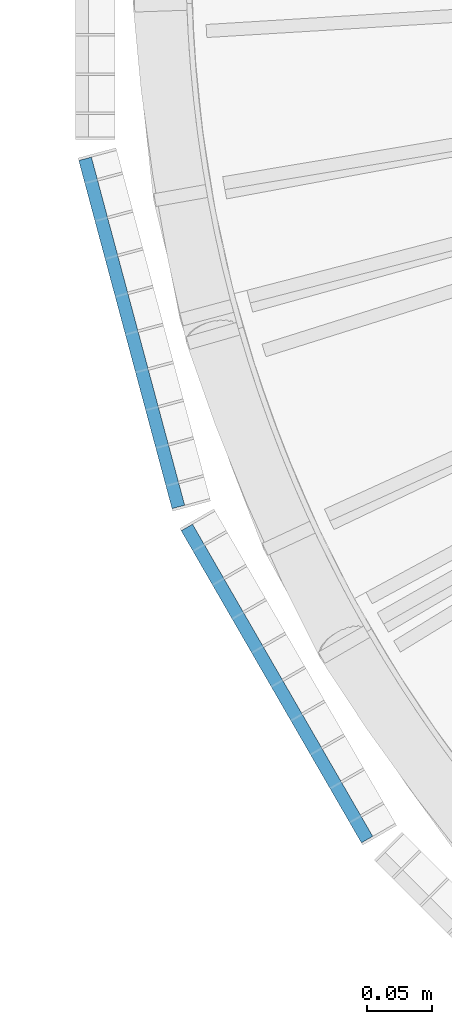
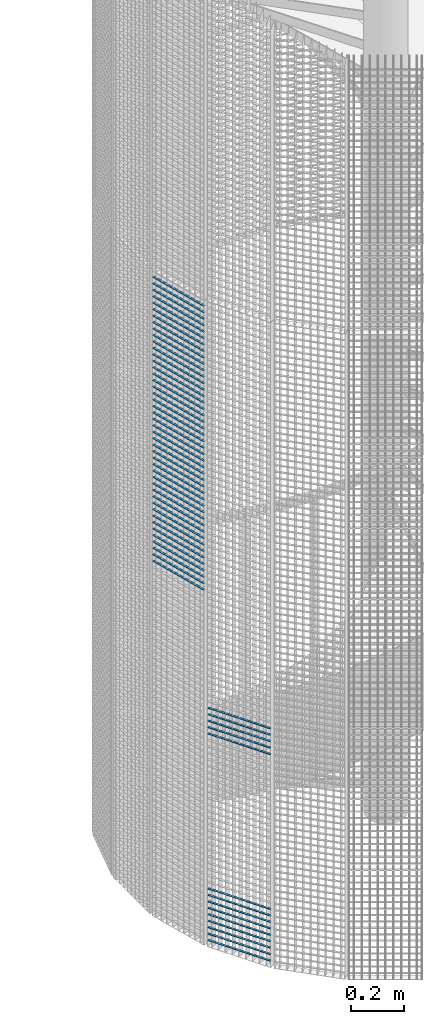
# One storey, part 131 of 1148: 59 beams, 2 elements without a shape of their own.
"""IFC2X3 building model written with IfcOpenShell, lengths in millimetres."""

from ifc_helpers import new_model, si_unit, frame, origin_with_axes, origin_2d_with_axis, place, context, subcontext, project, spatial, rectangle, extrude, material, type_object, element, aggregate, save


model = new_model("IFC2X3")

# Units and contexts
model_context = context("Model", 3, precision=1e-05, world=origin_with_axes())
body_context = subcontext(model_context, "Body", "Model", "MODEL_VIEW")
ifc_project = project(units=[si_unit("LENGTHUNIT", "METRE", prefix="MILLI"), si_unit("AREAUNIT", "SQUARE_METRE"), si_unit("VOLUMEUNIT", "CUBIC_METRE"), si_unit("MASSUNIT", "GRAM", prefix="KILO"), si_unit("TIMEUNIT", "SECOND"), si_unit("PLANEANGLEUNIT", "RADIAN"), si_unit("SOLIDANGLEUNIT", "STERADIAN"), si_unit("THERMODYNAMICTEMPERATUREUNIT", "DEGREE_CELSIUS"), si_unit("LUMINOUSINTENSITYUNIT", "LUMEN")], contexts=[model_context])

# Site, building, storey
site_placement = place(None, origin_with_axes())
site = spatial("IfcSite", under=ifc_project, at=site_placement, Name="Undefined", CompositionType="ELEMENT")
building_placement = place(site_placement, origin_with_axes())
building = spatial("IfcBuilding", under=site, at=building_placement, Name="Undefined", CompositionType="ELEMENT")
storey_placement = place(building_placement, origin_with_axes())
storey = spatial("IfcBuildingStorey", under=building, at=storey_placement, Name="Undefined", CompositionType="ELEMENT", Elevation=0.0)

# Assembly, beams
assembly_1_placement = place(storey_placement, origin_with_axes())
assembly_1 = element("IfcElementAssembly", 1, at=assembly_1_placement, inside=storey, Name="BORDURE", AssemblyPlace="NOTDEFINED", PredefinedType="NOTDEFINED")
ifc_material = material(Name="STEEL/S235JR")
beam_type = type_object("IfcBeamType", Name="PL2*10", PredefinedType="NOTDEFINED")
beam_1_placement = place(assembly_1_placement, frame((-1033.29996828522, -437.231955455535, 269.999999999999), z_axis=(-0.866025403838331, -0.499999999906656, 0.0), x_axis=(0.499999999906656, -0.866025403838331, 0.0)))
beam_1 = element("IfcBeam", 2, at=beam_1_placement, type_object=beam_type, material=ifc_material, Name="ENTRETOISE", context=body_context, shape_type="SweptSolid", body=[
    extrude(rectangle(XDim=2.0, YDim=10.0, at=origin_2d_with_axis()), frame((275.999999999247, 9.09494701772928e-13, 1.53210777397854e-14), z_axis=(-1.0, 0.0, 0.0), x_axis=(0.0, -1.0, 0.0)), (0.0, 0.0, 1.0), 276.0),
])
beam_2_placement = place(assembly_1_placement, frame((-1033.29996828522, -437.231955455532, 989.999999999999), z_axis=(-0.866025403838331, -0.499999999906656, 0.0), x_axis=(0.499999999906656, -0.866025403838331, 0.0)))
beam_2 = element("IfcBeam", 3, at=beam_2_placement, type_object=beam_type, material=ifc_material, Name="ENTRETOISE", context=body_context, shape_type="SweptSolid", body=[
    extrude(rectangle(XDim=2.0, YDim=10.0, at=origin_2d_with_axis()), frame((275.999999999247, 9.09494701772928e-13, 1.53210777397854e-14), z_axis=(-1.0, 0.0, 0.0), x_axis=(0.0, -1.0, 0.0)), (0.0, 0.0, 1.0), 276.0),
])
beam_3_placement = place(assembly_1_placement, frame((-1033.29996828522, -437.231955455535, 239.999999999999), z_axis=(-0.866025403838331, -0.499999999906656, 0.0), x_axis=(0.499999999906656, -0.866025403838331, 0.0)))
beam_3 = element("IfcBeam", 4, at=beam_3_placement, type_object=beam_type, material=ifc_material, Name="ENTRETOISE", context=body_context, shape_type="SweptSolid", body=[
    extrude(rectangle(XDim=2.0, YDim=10.0, at=origin_2d_with_axis()), frame((275.999999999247, 9.09494701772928e-13, 1.53210777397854e-14), z_axis=(-1.0, 0.0, 0.0), x_axis=(0.0, -1.0, 0.0)), (0.0, 0.0, 1.0), 276.0),
])
beam_4_placement = place(assembly_1_placement, frame((-1033.29996828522, -437.231955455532, 1020.0), z_axis=(-0.866025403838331, -0.499999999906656, 0.0), x_axis=(0.499999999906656, -0.866025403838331, 0.0)))
beam_4 = element("IfcBeam", 5, at=beam_4_placement, type_object=beam_type, material=ifc_material, Name="ENTRETOISE", context=body_context, shape_type="SweptSolid", body=[
    extrude(rectangle(XDim=2.0, YDim=10.0, at=origin_2d_with_axis()), frame((275.999999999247, 9.09494701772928e-13, 1.53210777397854e-14), z_axis=(-1.0, 0.0, 0.0), x_axis=(0.0, -1.0, 0.0)), (0.0, 0.0, 1.0), 276.0),
])
beam_5_placement = place(assembly_1_placement, frame((-1033.29996828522, -437.231955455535, 209.999999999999), z_axis=(-0.866025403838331, -0.499999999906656, 0.0), x_axis=(0.499999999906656, -0.866025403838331, 0.0)))
beam_5 = element("IfcBeam", 6, at=beam_5_placement, type_object=beam_type, material=ifc_material, Name="ENTRETOISE", context=body_context, shape_type="SweptSolid", body=[
    extrude(rectangle(XDim=2.0, YDim=10.0, at=origin_2d_with_axis()), frame((275.999999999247, 9.09494701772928e-13, 1.53210777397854e-14), z_axis=(-1.0, 0.0, 0.0), x_axis=(0.0, -1.0, 0.0)), (0.0, 0.0, 1.0), 276.0),
])
beam_6_placement = place(assembly_1_placement, frame((-1033.29996828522, -437.231955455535, 179.999999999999), z_axis=(-0.866025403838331, -0.499999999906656, 0.0), x_axis=(0.499999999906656, -0.866025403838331, 0.0)))
beam_6 = element("IfcBeam", 7, at=beam_6_placement, type_object=beam_type, material=ifc_material, Name="ENTRETOISE", context=body_context, shape_type="SweptSolid", body=[
    extrude(rectangle(XDim=2.0, YDim=10.0, at=origin_2d_with_axis()), frame((275.999999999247, 9.09494701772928e-13, 1.53210777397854e-14), z_axis=(-1.0, 0.0, 0.0), x_axis=(0.0, -1.0, 0.0)), (0.0, 0.0, 1.0), 276.0),
])
beam_7_placement = place(assembly_1_placement, frame((-1033.29996828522, -437.231955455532, 1050.0), z_axis=(-0.866025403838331, -0.499999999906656, 0.0), x_axis=(0.499999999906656, -0.866025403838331, 0.0)))
beam_7 = element("IfcBeam", 8, at=beam_7_placement, type_object=beam_type, material=ifc_material, Name="ENTRETOISE", context=body_context, shape_type="SweptSolid", body=[
    extrude(rectangle(XDim=2.0, YDim=10.0, at=origin_2d_with_axis()), frame((275.999999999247, 9.09494701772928e-13, 1.53210777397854e-14), z_axis=(-1.0, 0.0, 0.0), x_axis=(0.0, -1.0, 0.0)), (0.0, 0.0, 1.0), 276.0),
])
beam_8_placement = place(assembly_1_placement, frame((-1033.29996828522, -437.231955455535, 149.999999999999), z_axis=(-0.866025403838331, -0.499999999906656, 0.0), x_axis=(0.499999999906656, -0.866025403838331, 0.0)))
beam_8 = element("IfcBeam", 9, at=beam_8_placement, type_object=beam_type, material=ifc_material, Name="ENTRETOISE", context=body_context, shape_type="SweptSolid", body=[
    extrude(rectangle(XDim=2.0, YDim=10.0, at=origin_2d_with_axis()), frame((275.999999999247, 9.09494701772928e-13, 1.53210777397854e-14), z_axis=(-1.0, 0.0, 0.0), x_axis=(0.0, -1.0, 0.0)), (0.0, 0.0, 1.0), 276.0),
])
beam_9_placement = place(assembly_1_placement, frame((-1033.29996828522, -437.231955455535, 119.999999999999), z_axis=(-0.866025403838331, -0.499999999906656, 0.0), x_axis=(0.499999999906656, -0.866025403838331, 0.0)))
beam_9 = element("IfcBeam", 10, at=beam_9_placement, type_object=beam_type, material=ifc_material, Name="ENTRETOISE", context=body_context, shape_type="SweptSolid", body=[
    extrude(rectangle(XDim=2.0, YDim=10.0, at=origin_2d_with_axis()), frame((275.999999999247, 9.09494701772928e-13, 1.53210777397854e-14), z_axis=(-1.0, 0.0, 0.0), x_axis=(0.0, -1.0, 0.0)), (0.0, 0.0, 1.0), 276.0),
])
beam_10_placement = place(assembly_1_placement, frame((-1033.29996828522, -437.231955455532, 1080.0), z_axis=(-0.866025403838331, -0.499999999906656, 0.0), x_axis=(0.499999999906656, -0.866025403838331, 0.0)))
beam_10 = element("IfcBeam", 11, at=beam_10_placement, type_object=beam_type, material=ifc_material, Name="ENTRETOISE", context=body_context, shape_type="SweptSolid", body=[
    extrude(rectangle(XDim=2.0, YDim=10.0, at=origin_2d_with_axis()), frame((275.999999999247, 9.09494701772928e-13, 1.53210777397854e-14), z_axis=(-1.0, 0.0, 0.0), x_axis=(0.0, -1.0, 0.0)), (0.0, 0.0, 1.0), 276.0),
])
beam_11_placement = place(assembly_1_placement, frame((-1033.29996828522, -437.231955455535, 89.9999999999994), z_axis=(-0.866025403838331, -0.499999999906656, 0.0), x_axis=(0.499999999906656, -0.866025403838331, 0.0)))
beam_11 = element("IfcBeam", 12, at=beam_11_placement, type_object=beam_type, material=ifc_material, Name="ENTRETOISE", context=body_context, shape_type="SweptSolid", body=[
    extrude(rectangle(XDim=2.0, YDim=10.0, at=origin_2d_with_axis()), frame((275.999999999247, 9.09494701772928e-13, 1.53210777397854e-14), z_axis=(-1.0, 0.0, 0.0), x_axis=(0.0, -1.0, 0.0)), (0.0, 0.0, 1.0), 276.0),
])
beam_12_placement = place(assembly_1_placement, frame((-1033.29996828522, -437.231955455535, 59.9999999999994), z_axis=(-0.866025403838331, -0.499999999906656, 0.0), x_axis=(0.499999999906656, -0.866025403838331, 0.0)))
beam_12 = element("IfcBeam", 13, at=beam_12_placement, type_object=beam_type, material=ifc_material, Name="ENTRETOISE", context=body_context, shape_type="SweptSolid", body=[
    extrude(rectangle(XDim=2.0, YDim=10.0, at=origin_2d_with_axis()), frame((275.999999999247, 9.09494701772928e-13, 1.53210777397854e-14), z_axis=(-1.0, 0.0, 0.0), x_axis=(0.0, -1.0, 0.0)), (0.0, 0.0, 1.0), 276.0),
])
beam_13_placement = place(assembly_1_placement, frame((-1033.29996828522, -437.231955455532, 1110.0), z_axis=(-0.866025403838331, -0.499999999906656, 0.0), x_axis=(0.499999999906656, -0.866025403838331, 0.0)))
beam_13 = element("IfcBeam", 14, at=beam_13_placement, type_object=beam_type, material=ifc_material, Name="ENTRETOISE", context=body_context, shape_type="SweptSolid", body=[
    extrude(rectangle(XDim=2.0, YDim=10.0, at=origin_2d_with_axis()), frame((275.999999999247, 9.09494701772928e-13, 1.53210777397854e-14), z_axis=(-1.0, 0.0, 0.0), x_axis=(0.0, -1.0, 0.0)), (0.0, 0.0, 1.0), 276.0),
])
beam_14_placement = place(assembly_1_placement, frame((-1033.29996828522, -437.231955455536, 29.9999999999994), z_axis=(-0.866025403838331, -0.499999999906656, 0.0), x_axis=(0.499999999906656, -0.866025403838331, 0.0)))
beam_14 = element("IfcBeam", 15, at=beam_14_placement, type_object=beam_type, material=ifc_material, Name="ENTRETOISE", context=body_context, shape_type="SweptSolid", body=[
    extrude(rectangle(XDim=2.0, YDim=10.0, at=origin_2d_with_axis()), frame((275.999999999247, 9.09494701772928e-13, 1.53210777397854e-14), z_axis=(-1.0, 0.0, 0.0), x_axis=(0.0, -1.0, 0.0)), (0.0, 0.0, 1.0), 276.0),
])
aggregate(assembly_1, [beam_1, beam_2, beam_3, beam_4, beam_5, beam_6, beam_7, beam_8, beam_9, beam_10, beam_11, beam_12, beam_13, beam_14])

assembly_2_placement = place(storey_placement, origin_with_axes())
assembly_2 = element("IfcElementAssembly", 16, at=assembly_2_placement, inside=storey, Name="BORDURE", AssemblyPlace="NOTDEFINED", PredefinedType="NOTDEFINED")
beam_15_placement = place(assembly_2_placement, frame((-1111.25508286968, -154.895926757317, 2970.0), z_axis=(-0.965925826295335, -0.258819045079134, 0.0), x_axis=(0.258819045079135, -0.965925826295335, 0.0)))
beam_15 = element("IfcBeam", 17, at=beam_15_placement, type_object=beam_type, material=ifc_material, Name="ENTRETOISE", context=body_context, shape_type="SweptSolid", body=[
    extrude(rectangle(XDim=2.0, YDim=10.0, at=origin_2d_with_axis()), frame((275.999999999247, 9.09494701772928e-13, 1.53210777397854e-14), z_axis=(-1.0, 0.0, 0.0), x_axis=(0.0, -1.0, 0.0)), (0.0, 0.0, 1.0), 276.0),
])
beam_16_placement = place(assembly_2_placement, frame((-1111.25508286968, -154.895926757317, 2940.0), z_axis=(-0.965925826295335, -0.258819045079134, 0.0), x_axis=(0.258819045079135, -0.965925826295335, 0.0)))
beam_16 = element("IfcBeam", 18, at=beam_16_placement, type_object=beam_type, material=ifc_material, Name="ENTRETOISE", context=body_context, shape_type="SweptSolid", body=[
    extrude(rectangle(XDim=2.0, YDim=10.0, at=origin_2d_with_axis()), frame((275.999999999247, 9.09494701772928e-13, 1.53210777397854e-14), z_axis=(-1.0, 0.0, 0.0), x_axis=(0.0, -1.0, 0.0)), (0.0, 0.0, 1.0), 276.0),
])
beam_17_placement = place(assembly_2_placement, frame((-1111.25508286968, -154.895926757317, 2910.0), z_axis=(-0.965925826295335, -0.258819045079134, 0.0), x_axis=(0.258819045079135, -0.965925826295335, 0.0)))
beam_17 = element("IfcBeam", 19, at=beam_17_placement, type_object=beam_type, material=ifc_material, Name="ENTRETOISE", context=body_context, shape_type="SweptSolid", body=[
    extrude(rectangle(XDim=2.0, YDim=10.0, at=origin_2d_with_axis()), frame((275.999999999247, 9.09494701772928e-13, 1.53210777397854e-14), z_axis=(-1.0, 0.0, 0.0), x_axis=(0.0, -1.0, 0.0)), (0.0, 0.0, 1.0), 276.0),
])
beam_18_placement = place(assembly_2_placement, frame((-1111.25508286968, -154.895926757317, 2880.0), z_axis=(-0.965925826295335, -0.258819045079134, 0.0), x_axis=(0.258819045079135, -0.965925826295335, 0.0)))
beam_18 = element("IfcBeam", 20, at=beam_18_placement, type_object=beam_type, material=ifc_material, Name="ENTRETOISE", context=body_context, shape_type="SweptSolid", body=[
    extrude(rectangle(XDim=2.0, YDim=10.0, at=origin_2d_with_axis()), frame((275.999999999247, 9.09494701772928e-13, 1.53210777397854e-14), z_axis=(-1.0, 0.0, 0.0), x_axis=(0.0, -1.0, 0.0)), (0.0, 0.0, 1.0), 276.0),
])
beam_19_placement = place(assembly_2_placement, frame((-1111.25508286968, -154.895926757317, 2850.0), z_axis=(-0.965925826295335, -0.258819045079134, 0.0), x_axis=(0.258819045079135, -0.965925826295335, 0.0)))
beam_19 = element("IfcBeam", 21, at=beam_19_placement, type_object=beam_type, material=ifc_material, Name="ENTRETOISE", context=body_context, shape_type="SweptSolid", body=[
    extrude(rectangle(XDim=2.0, YDim=10.0, at=origin_2d_with_axis()), frame((275.999999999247, 9.09494701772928e-13, 1.53210777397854e-14), z_axis=(-1.0, 0.0, 0.0), x_axis=(0.0, -1.0, 0.0)), (0.0, 0.0, 1.0), 276.0),
])
beam_20_placement = place(assembly_2_placement, frame((-1111.25508286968, -154.895926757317, 2820.0), z_axis=(-0.965925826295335, -0.258819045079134, 0.0), x_axis=(0.258819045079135, -0.965925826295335, 0.0)))
beam_20 = element("IfcBeam", 22, at=beam_20_placement, type_object=beam_type, material=ifc_material, Name="ENTRETOISE", context=body_context, shape_type="SweptSolid", body=[
    extrude(rectangle(XDim=2.0, YDim=10.0, at=origin_2d_with_axis()), frame((275.999999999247, 9.09494701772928e-13, 1.53210777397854e-14), z_axis=(-1.0, 0.0, 0.0), x_axis=(0.0, -1.0, 0.0)), (0.0, 0.0, 1.0), 276.0),
])
beam_21_placement = place(assembly_2_placement, frame((-1111.25508286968, -154.895926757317, 2790.0), z_axis=(-0.965925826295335, -0.258819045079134, 0.0), x_axis=(0.258819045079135, -0.965925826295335, 0.0)))
beam_21 = element("IfcBeam", 23, at=beam_21_placement, type_object=beam_type, material=ifc_material, Name="ENTRETOISE", context=body_context, shape_type="SweptSolid", body=[
    extrude(rectangle(XDim=2.0, YDim=10.0, at=origin_2d_with_axis()), frame((275.999999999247, 9.09494701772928e-13, 1.53210777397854e-14), z_axis=(-1.0, 0.0, 0.0), x_axis=(0.0, -1.0, 0.0)), (0.0, 0.0, 1.0), 276.0),
])
beam_22_placement = place(assembly_2_placement, frame((-1111.25508286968, -154.895926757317, 2760.0), z_axis=(-0.965925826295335, -0.258819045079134, 0.0), x_axis=(0.258819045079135, -0.965925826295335, 0.0)))
beam_22 = element("IfcBeam", 24, at=beam_22_placement, type_object=beam_type, material=ifc_material, Name="ENTRETOISE", context=body_context, shape_type="SweptSolid", body=[
    extrude(rectangle(XDim=2.0, YDim=10.0, at=origin_2d_with_axis()), frame((275.999999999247, 9.09494701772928e-13, 1.53210777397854e-14), z_axis=(-1.0, 0.0, 0.0), x_axis=(0.0, -1.0, 0.0)), (0.0, 0.0, 1.0), 276.0),
])
beam_23_placement = place(assembly_2_placement, frame((-1111.25508286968, -154.895926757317, 2730.0), z_axis=(-0.965925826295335, -0.258819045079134, 0.0), x_axis=(0.258819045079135, -0.965925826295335, 0.0)))
beam_23 = element("IfcBeam", 25, at=beam_23_placement, type_object=beam_type, material=ifc_material, Name="ENTRETOISE", context=body_context, shape_type="SweptSolid", body=[
    extrude(rectangle(XDim=2.0, YDim=10.0, at=origin_2d_with_axis()), frame((275.999999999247, 9.09494701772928e-13, 1.53210777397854e-14), z_axis=(-1.0, 0.0, 0.0), x_axis=(0.0, -1.0, 0.0)), (0.0, 0.0, 1.0), 276.0),
])
beam_24_placement = place(assembly_2_placement, frame((-1111.25508286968, -154.895926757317, 2700.0), z_axis=(-0.965925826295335, -0.258819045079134, 0.0), x_axis=(0.258819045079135, -0.965925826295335, 0.0)))
beam_24 = element("IfcBeam", 26, at=beam_24_placement, type_object=beam_type, material=ifc_material, Name="ENTRETOISE", context=body_context, shape_type="SweptSolid", body=[
    extrude(rectangle(XDim=2.0, YDim=10.0, at=origin_2d_with_axis()), frame((275.999999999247, 9.09494701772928e-13, 1.53210777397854e-14), z_axis=(-1.0, 0.0, 0.0), x_axis=(0.0, -1.0, 0.0)), (0.0, 0.0, 1.0), 276.0),
])
beam_25_placement = place(assembly_2_placement, frame((-1111.25508286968, -154.895926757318, 2670.0), z_axis=(-0.965925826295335, -0.258819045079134, 0.0), x_axis=(0.258819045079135, -0.965925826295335, 0.0)))
beam_25 = element("IfcBeam", 27, at=beam_25_placement, type_object=beam_type, material=ifc_material, Name="ENTRETOISE", context=body_context, shape_type="SweptSolid", body=[
    extrude(rectangle(XDim=2.0, YDim=10.0, at=origin_2d_with_axis()), frame((275.999999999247, 9.09494701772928e-13, 1.53210777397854e-14), z_axis=(-1.0, 0.0, 0.0), x_axis=(0.0, -1.0, 0.0)), (0.0, 0.0, 1.0), 276.0),
])
beam_26_placement = place(assembly_2_placement, frame((-1111.25508286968, -154.895926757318, 2640.0), z_axis=(-0.965925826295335, -0.258819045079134, 0.0), x_axis=(0.258819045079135, -0.965925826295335, 0.0)))
beam_26 = element("IfcBeam", 28, at=beam_26_placement, type_object=beam_type, material=ifc_material, Name="ENTRETOISE", context=body_context, shape_type="SweptSolid", body=[
    extrude(rectangle(XDim=2.0, YDim=10.0, at=origin_2d_with_axis()), frame((275.999999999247, 9.09494701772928e-13, 1.53210777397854e-14), z_axis=(-1.0, 0.0, 0.0), x_axis=(0.0, -1.0, 0.0)), (0.0, 0.0, 1.0), 276.0),
])
beam_27_placement = place(assembly_2_placement, frame((-1111.25508286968, -154.895926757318, 2610.0), z_axis=(-0.965925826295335, -0.258819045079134, 0.0), x_axis=(0.258819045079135, -0.965925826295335, 0.0)))
beam_27 = element("IfcBeam", 29, at=beam_27_placement, type_object=beam_type, material=ifc_material, Name="ENTRETOISE", context=body_context, shape_type="SweptSolid", body=[
    extrude(rectangle(XDim=2.0, YDim=10.0, at=origin_2d_with_axis()), frame((275.999999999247, 9.09494701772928e-13, 1.53210777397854e-14), z_axis=(-1.0, 0.0, 0.0), x_axis=(0.0, -1.0, 0.0)), (0.0, 0.0, 1.0), 276.0),
])
beam_28_placement = place(assembly_2_placement, frame((-1111.25508286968, -154.895926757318, 2580.0), z_axis=(-0.965925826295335, -0.258819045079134, 0.0), x_axis=(0.258819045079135, -0.965925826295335, 0.0)))
beam_28 = element("IfcBeam", 30, at=beam_28_placement, type_object=beam_type, material=ifc_material, Name="ENTRETOISE", context=body_context, shape_type="SweptSolid", body=[
    extrude(rectangle(XDim=2.0, YDim=10.0, at=origin_2d_with_axis()), frame((275.999999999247, 9.09494701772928e-13, 1.53210777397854e-14), z_axis=(-1.0, 0.0, 0.0), x_axis=(0.0, -1.0, 0.0)), (0.0, 0.0, 1.0), 276.0),
])
beam_29_placement = place(assembly_2_placement, frame((-1111.25508286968, -154.895926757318, 2550.0), z_axis=(-0.965925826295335, -0.258819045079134, 0.0), x_axis=(0.258819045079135, -0.965925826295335, 0.0)))
beam_29 = element("IfcBeam", 31, at=beam_29_placement, type_object=beam_type, material=ifc_material, Name="ENTRETOISE", context=body_context, shape_type="SweptSolid", body=[
    extrude(rectangle(XDim=2.0, YDim=10.0, at=origin_2d_with_axis()), frame((275.999999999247, 9.09494701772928e-13, 1.53210777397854e-14), z_axis=(-1.0, 0.0, 0.0), x_axis=(0.0, -1.0, 0.0)), (0.0, 0.0, 1.0), 276.0),
])
beam_30_placement = place(assembly_2_placement, frame((-1111.25508286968, -154.895926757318, 2520.0), z_axis=(-0.965925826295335, -0.258819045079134, 0.0), x_axis=(0.258819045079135, -0.965925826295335, 0.0)))
beam_30 = element("IfcBeam", 32, at=beam_30_placement, type_object=beam_type, material=ifc_material, Name="ENTRETOISE", context=body_context, shape_type="SweptSolid", body=[
    extrude(rectangle(XDim=2.0, YDim=10.0, at=origin_2d_with_axis()), frame((275.999999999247, 9.09494701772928e-13, 1.53210777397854e-14), z_axis=(-1.0, 0.0, 0.0), x_axis=(0.0, -1.0, 0.0)), (0.0, 0.0, 1.0), 276.0),
])
beam_31_placement = place(assembly_2_placement, frame((-1111.25508286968, -154.895926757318, 2490.0), z_axis=(-0.965925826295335, -0.258819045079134, 0.0), x_axis=(0.258819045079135, -0.965925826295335, 0.0)))
beam_31 = element("IfcBeam", 33, at=beam_31_placement, type_object=beam_type, material=ifc_material, Name="ENTRETOISE", context=body_context, shape_type="SweptSolid", body=[
    extrude(rectangle(XDim=2.0, YDim=10.0, at=origin_2d_with_axis()), frame((275.999999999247, 9.09494701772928e-13, 1.53210777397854e-14), z_axis=(-1.0, 0.0, 0.0), x_axis=(0.0, -1.0, 0.0)), (0.0, 0.0, 1.0), 276.0),
])
beam_32_placement = place(assembly_2_placement, frame((-1111.25508286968, -154.895926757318, 2460.0), z_axis=(-0.965925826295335, -0.258819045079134, 0.0), x_axis=(0.258819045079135, -0.965925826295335, 0.0)))
beam_32 = element("IfcBeam", 34, at=beam_32_placement, type_object=beam_type, material=ifc_material, Name="ENTRETOISE", context=body_context, shape_type="SweptSolid", body=[
    extrude(rectangle(XDim=2.0, YDim=10.0, at=origin_2d_with_axis()), frame((275.999999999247, 9.09494701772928e-13, 1.53210777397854e-14), z_axis=(-1.0, 0.0, 0.0), x_axis=(0.0, -1.0, 0.0)), (0.0, 0.0, 1.0), 276.0),
])
beam_33_placement = place(assembly_2_placement, frame((-1111.25508286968, -154.895926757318, 2430.0), z_axis=(-0.965925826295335, -0.258819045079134, 0.0), x_axis=(0.258819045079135, -0.965925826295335, 0.0)))
beam_33 = element("IfcBeam", 35, at=beam_33_placement, type_object=beam_type, material=ifc_material, Name="ENTRETOISE", context=body_context, shape_type="SweptSolid", body=[
    extrude(rectangle(XDim=2.0, YDim=10.0, at=origin_2d_with_axis()), frame((275.999999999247, 9.09494701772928e-13, 1.53210777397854e-14), z_axis=(-1.0, 0.0, 0.0), x_axis=(0.0, -1.0, 0.0)), (0.0, 0.0, 1.0), 276.0),
])
beam_34_placement = place(assembly_2_placement, frame((-1111.25508286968, -154.895926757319, 2400.0), z_axis=(-0.965925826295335, -0.258819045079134, 0.0), x_axis=(0.258819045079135, -0.965925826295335, 0.0)))
beam_34 = element("IfcBeam", 36, at=beam_34_placement, type_object=beam_type, material=ifc_material, Name="ENTRETOISE", context=body_context, shape_type="SweptSolid", body=[
    extrude(rectangle(XDim=2.0, YDim=10.0, at=origin_2d_with_axis()), frame((275.999999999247, 9.09494701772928e-13, 1.53210777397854e-14), z_axis=(-1.0, 0.0, 0.0), x_axis=(0.0, -1.0, 0.0)), (0.0, 0.0, 1.0), 276.0),
])
beam_35_placement = place(assembly_2_placement, frame((-1111.25508286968, -154.895926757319, 2370.0), z_axis=(-0.965925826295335, -0.258819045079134, 0.0), x_axis=(0.258819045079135, -0.965925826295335, 0.0)))
beam_35 = element("IfcBeam", 37, at=beam_35_placement, type_object=beam_type, material=ifc_material, Name="ENTRETOISE", context=body_context, shape_type="SweptSolid", body=[
    extrude(rectangle(XDim=2.0, YDim=10.0, at=origin_2d_with_axis()), frame((275.999999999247, 9.09494701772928e-13, 1.53210777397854e-14), z_axis=(-1.0, 0.0, 0.0), x_axis=(0.0, -1.0, 0.0)), (0.0, 0.0, 1.0), 276.0),
])
beam_36_placement = place(assembly_2_placement, frame((-1111.25508286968, -154.895926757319, 2340.0), z_axis=(-0.965925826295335, -0.258819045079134, 0.0), x_axis=(0.258819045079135, -0.965925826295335, 0.0)))
beam_36 = element("IfcBeam", 38, at=beam_36_placement, type_object=beam_type, material=ifc_material, Name="ENTRETOISE", context=body_context, shape_type="SweptSolid", body=[
    extrude(rectangle(XDim=2.0, YDim=10.0, at=origin_2d_with_axis()), frame((275.999999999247, 9.09494701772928e-13, 1.53210777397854e-14), z_axis=(-1.0, 0.0, 0.0), x_axis=(0.0, -1.0, 0.0)), (0.0, 0.0, 1.0), 276.0),
])
beam_37_placement = place(assembly_2_placement, frame((-1111.25508286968, -154.895926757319, 2310.0), z_axis=(-0.965925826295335, -0.258819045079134, 0.0), x_axis=(0.258819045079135, -0.965925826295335, 0.0)))
beam_37 = element("IfcBeam", 39, at=beam_37_placement, type_object=beam_type, material=ifc_material, Name="ENTRETOISE", context=body_context, shape_type="SweptSolid", body=[
    extrude(rectangle(XDim=2.0, YDim=10.0, at=origin_2d_with_axis()), frame((275.999999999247, 9.09494701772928e-13, 1.53210777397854e-14), z_axis=(-1.0, 0.0, 0.0), x_axis=(0.0, -1.0, 0.0)), (0.0, 0.0, 1.0), 276.0),
])
beam_38_placement = place(assembly_2_placement, frame((-1111.25508286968, -154.895926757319, 2280.0), z_axis=(-0.965925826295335, -0.258819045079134, 0.0), x_axis=(0.258819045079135, -0.965925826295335, 0.0)))
beam_38 = element("IfcBeam", 40, at=beam_38_placement, type_object=beam_type, material=ifc_material, Name="ENTRETOISE", context=body_context, shape_type="SweptSolid", body=[
    extrude(rectangle(XDim=2.0, YDim=10.0, at=origin_2d_with_axis()), frame((275.999999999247, 9.09494701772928e-13, 1.53210777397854e-14), z_axis=(-1.0, 0.0, 0.0), x_axis=(0.0, -1.0, 0.0)), (0.0, 0.0, 1.0), 276.0),
])
beam_39_placement = place(assembly_2_placement, frame((-1111.25508286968, -154.895926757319, 2250.0), z_axis=(-0.965925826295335, -0.258819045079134, 0.0), x_axis=(0.258819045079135, -0.965925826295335, 0.0)))
beam_39 = element("IfcBeam", 41, at=beam_39_placement, type_object=beam_type, material=ifc_material, Name="ENTRETOISE", context=body_context, shape_type="SweptSolid", body=[
    extrude(rectangle(XDim=2.0, YDim=10.0, at=origin_2d_with_axis()), frame((275.999999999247, 9.09494701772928e-13, 1.53210777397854e-14), z_axis=(-1.0, 0.0, 0.0), x_axis=(0.0, -1.0, 0.0)), (0.0, 0.0, 1.0), 276.0),
])
beam_40_placement = place(assembly_2_placement, frame((-1111.25508286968, -154.895926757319, 2220.0), z_axis=(-0.965925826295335, -0.258819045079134, 0.0), x_axis=(0.258819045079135, -0.965925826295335, 0.0)))
beam_40 = element("IfcBeam", 42, at=beam_40_placement, type_object=beam_type, material=ifc_material, Name="ENTRETOISE", context=body_context, shape_type="SweptSolid", body=[
    extrude(rectangle(XDim=2.0, YDim=10.0, at=origin_2d_with_axis()), frame((275.999999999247, 9.09494701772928e-13, 1.53210777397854e-14), z_axis=(-1.0, 0.0, 0.0), x_axis=(0.0, -1.0, 0.0)), (0.0, 0.0, 1.0), 276.0),
])
beam_41_placement = place(assembly_2_placement, frame((-1111.25508286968, -154.895926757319, 2190.0), z_axis=(-0.965925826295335, -0.258819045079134, 0.0), x_axis=(0.258819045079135, -0.965925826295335, 0.0)))
beam_41 = element("IfcBeam", 43, at=beam_41_placement, type_object=beam_type, material=ifc_material, Name="ENTRETOISE", context=body_context, shape_type="SweptSolid", body=[
    extrude(rectangle(XDim=2.0, YDim=10.0, at=origin_2d_with_axis()), frame((275.999999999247, 9.09494701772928e-13, 1.53210777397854e-14), z_axis=(-1.0, 0.0, 0.0), x_axis=(0.0, -1.0, 0.0)), (0.0, 0.0, 1.0), 276.0),
])
beam_42_placement = place(assembly_2_placement, frame((-1111.25508286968, -154.895926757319, 2160.0), z_axis=(-0.965925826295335, -0.258819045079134, 0.0), x_axis=(0.258819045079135, -0.965925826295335, 0.0)))
beam_42 = element("IfcBeam", 44, at=beam_42_placement, type_object=beam_type, material=ifc_material, Name="ENTRETOISE", context=body_context, shape_type="SweptSolid", body=[
    extrude(rectangle(XDim=2.0, YDim=10.0, at=origin_2d_with_axis()), frame((275.999999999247, 9.09494701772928e-13, 1.53210777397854e-14), z_axis=(-1.0, 0.0, 0.0), x_axis=(0.0, -1.0, 0.0)), (0.0, 0.0, 1.0), 276.0),
])
beam_43_placement = place(assembly_2_placement, frame((-1111.25508286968, -154.89592675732, 2130.0), z_axis=(-0.965925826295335, -0.258819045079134, 0.0), x_axis=(0.258819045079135, -0.965925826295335, 0.0)))
beam_43 = element("IfcBeam", 45, at=beam_43_placement, type_object=beam_type, material=ifc_material, Name="ENTRETOISE", context=body_context, shape_type="SweptSolid", body=[
    extrude(rectangle(XDim=2.0, YDim=10.0, at=origin_2d_with_axis()), frame((275.999999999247, 9.09494701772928e-13, 1.53210777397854e-14), z_axis=(-1.0, 0.0, 0.0), x_axis=(0.0, -1.0, 0.0)), (0.0, 0.0, 1.0), 276.0),
])
beam_44_placement = place(assembly_2_placement, frame((-1111.25508286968, -154.89592675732, 2100.0), z_axis=(-0.965925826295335, -0.258819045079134, 0.0), x_axis=(0.258819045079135, -0.965925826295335, 0.0)))
beam_44 = element("IfcBeam", 46, at=beam_44_placement, type_object=beam_type, material=ifc_material, Name="ENTRETOISE", context=body_context, shape_type="SweptSolid", body=[
    extrude(rectangle(XDim=2.0, YDim=10.0, at=origin_2d_with_axis()), frame((275.999999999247, 9.09494701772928e-13, 1.53210777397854e-14), z_axis=(-1.0, 0.0, 0.0), x_axis=(0.0, -1.0, 0.0)), (0.0, 0.0, 1.0), 276.0),
])
beam_45_placement = place(assembly_2_placement, frame((-1111.25508286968, -154.89592675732, 2070.0), z_axis=(-0.965925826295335, -0.258819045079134, 0.0), x_axis=(0.258819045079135, -0.965925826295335, 0.0)))
beam_45 = element("IfcBeam", 47, at=beam_45_placement, type_object=beam_type, material=ifc_material, Name="ENTRETOISE", context=body_context, shape_type="SweptSolid", body=[
    extrude(rectangle(XDim=2.0, YDim=10.0, at=origin_2d_with_axis()), frame((275.999999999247, 9.09494701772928e-13, 1.53210777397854e-14), z_axis=(-1.0, 0.0, 0.0), x_axis=(0.0, -1.0, 0.0)), (0.0, 0.0, 1.0), 276.0),
])
beam_46_placement = place(assembly_2_placement, frame((-1111.25508286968, -154.89592675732, 2040.0), z_axis=(-0.965925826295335, -0.258819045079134, 0.0), x_axis=(0.258819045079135, -0.965925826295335, 0.0)))
beam_46 = element("IfcBeam", 48, at=beam_46_placement, type_object=beam_type, material=ifc_material, Name="ENTRETOISE", context=body_context, shape_type="SweptSolid", body=[
    extrude(rectangle(XDim=2.0, YDim=10.0, at=origin_2d_with_axis()), frame((275.999999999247, 9.09494701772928e-13, 1.53210777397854e-14), z_axis=(-1.0, 0.0, 0.0), x_axis=(0.0, -1.0, 0.0)), (0.0, 0.0, 1.0), 276.0),
])
beam_47_placement = place(assembly_2_placement, frame((-1111.25508286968, -154.89592675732, 2010.0), z_axis=(-0.965925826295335, -0.258819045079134, 0.0), x_axis=(0.258819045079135, -0.965925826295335, 0.0)))
beam_47 = element("IfcBeam", 49, at=beam_47_placement, type_object=beam_type, material=ifc_material, Name="ENTRETOISE", context=body_context, shape_type="SweptSolid", body=[
    extrude(rectangle(XDim=2.0, YDim=10.0, at=origin_2d_with_axis()), frame((275.999999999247, 9.09494701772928e-13, 1.53210777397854e-14), z_axis=(-1.0, 0.0, 0.0), x_axis=(0.0, -1.0, 0.0)), (0.0, 0.0, 1.0), 276.0),
])
beam_48_placement = place(assembly_2_placement, frame((-1111.25508286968, -154.89592675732, 1980.0), z_axis=(-0.965925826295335, -0.258819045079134, 0.0), x_axis=(0.258819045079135, -0.965925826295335, 0.0)))
beam_48 = element("IfcBeam", 50, at=beam_48_placement, type_object=beam_type, material=ifc_material, Name="ENTRETOISE", context=body_context, shape_type="SweptSolid", body=[
    extrude(rectangle(XDim=2.0, YDim=10.0, at=origin_2d_with_axis()), frame((275.999999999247, 9.09494701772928e-13, 1.53210777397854e-14), z_axis=(-1.0, 0.0, 0.0), x_axis=(0.0, -1.0, 0.0)), (0.0, 0.0, 1.0), 276.0),
])
beam_49_placement = place(assembly_2_placement, frame((-1111.25508286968, -154.89592675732, 1950.0), z_axis=(-0.965925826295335, -0.258819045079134, 0.0), x_axis=(0.258819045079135, -0.965925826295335, 0.0)))
beam_49 = element("IfcBeam", 51, at=beam_49_placement, type_object=beam_type, material=ifc_material, Name="ENTRETOISE", context=body_context, shape_type="SweptSolid", body=[
    extrude(rectangle(XDim=2.0, YDim=10.0, at=origin_2d_with_axis()), frame((275.999999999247, 9.09494701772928e-13, 1.53210777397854e-14), z_axis=(-1.0, 0.0, 0.0), x_axis=(0.0, -1.0, 0.0)), (0.0, 0.0, 1.0), 276.0),
])
beam_50_placement = place(assembly_2_placement, frame((-1111.25508286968, -154.89592675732, 1920.0), z_axis=(-0.965925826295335, -0.258819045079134, 0.0), x_axis=(0.258819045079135, -0.965925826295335, 0.0)))
beam_50 = element("IfcBeam", 52, at=beam_50_placement, type_object=beam_type, material=ifc_material, Name="ENTRETOISE", context=body_context, shape_type="SweptSolid", body=[
    extrude(rectangle(XDim=2.0, YDim=10.0, at=origin_2d_with_axis()), frame((275.999999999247, 9.09494701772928e-13, 1.53210777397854e-14), z_axis=(-1.0, 0.0, 0.0), x_axis=(0.0, -1.0, 0.0)), (0.0, 0.0, 1.0), 276.0),
])
beam_51_placement = place(assembly_2_placement, frame((-1111.25508286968, -154.89592675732, 1890.0), z_axis=(-0.965925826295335, -0.258819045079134, 0.0), x_axis=(0.258819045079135, -0.965925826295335, 0.0)))
beam_51 = element("IfcBeam", 53, at=beam_51_placement, type_object=beam_type, material=ifc_material, Name="ENTRETOISE", context=body_context, shape_type="SweptSolid", body=[
    extrude(rectangle(XDim=2.0, YDim=10.0, at=origin_2d_with_axis()), frame((275.999999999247, 9.09494701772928e-13, 1.53210777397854e-14), z_axis=(-1.0, 0.0, 0.0), x_axis=(0.0, -1.0, 0.0)), (0.0, 0.0, 1.0), 276.0),
])
beam_52_placement = place(assembly_2_placement, frame((-1111.25508286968, -154.895926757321, 1860.0), z_axis=(-0.965925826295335, -0.258819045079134, 0.0), x_axis=(0.258819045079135, -0.965925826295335, 0.0)))
beam_52 = element("IfcBeam", 54, at=beam_52_placement, type_object=beam_type, material=ifc_material, Name="ENTRETOISE", context=body_context, shape_type="SweptSolid", body=[
    extrude(rectangle(XDim=2.0, YDim=10.0, at=origin_2d_with_axis()), frame((275.999999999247, 9.09494701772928e-13, 1.53210777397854e-14), z_axis=(-1.0, 0.0, 0.0), x_axis=(0.0, -1.0, 0.0)), (0.0, 0.0, 1.0), 276.0),
])
beam_53_placement = place(assembly_2_placement, frame((-1111.25508286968, -154.895926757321, 1830.0), z_axis=(-0.965925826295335, -0.258819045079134, 0.0), x_axis=(0.258819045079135, -0.965925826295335, 0.0)))
beam_53 = element("IfcBeam", 55, at=beam_53_placement, type_object=beam_type, material=ifc_material, Name="ENTRETOISE", context=body_context, shape_type="SweptSolid", body=[
    extrude(rectangle(XDim=2.0, YDim=10.0, at=origin_2d_with_axis()), frame((275.999999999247, 9.09494701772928e-13, 1.53210777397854e-14), z_axis=(-1.0, 0.0, 0.0), x_axis=(0.0, -1.0, 0.0)), (0.0, 0.0, 1.0), 276.0),
])
beam_54_placement = place(assembly_2_placement, frame((-1111.25508286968, -154.895926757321, 1800.0), z_axis=(-0.965925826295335, -0.258819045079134, 0.0), x_axis=(0.258819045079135, -0.965925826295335, 0.0)))
beam_54 = element("IfcBeam", 56, at=beam_54_placement, type_object=beam_type, material=ifc_material, Name="ENTRETOISE", context=body_context, shape_type="SweptSolid", body=[
    extrude(rectangle(XDim=2.0, YDim=10.0, at=origin_2d_with_axis()), frame((275.999999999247, 9.09494701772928e-13, 1.53210777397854e-14), z_axis=(-1.0, 0.0, 0.0), x_axis=(0.0, -1.0, 0.0)), (0.0, 0.0, 1.0), 276.0),
])
beam_55_placement = place(assembly_2_placement, frame((-1111.25508286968, -154.895926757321, 1770.0), z_axis=(-0.965925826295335, -0.258819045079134, 0.0), x_axis=(0.258819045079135, -0.965925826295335, 0.0)))
beam_55 = element("IfcBeam", 57, at=beam_55_placement, type_object=beam_type, material=ifc_material, Name="ENTRETOISE", context=body_context, shape_type="SweptSolid", body=[
    extrude(rectangle(XDim=2.0, YDim=10.0, at=origin_2d_with_axis()), frame((275.999999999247, 9.09494701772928e-13, 1.53210777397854e-14), z_axis=(-1.0, 0.0, 0.0), x_axis=(0.0, -1.0, 0.0)), (0.0, 0.0, 1.0), 276.0),
])
beam_56_placement = place(assembly_2_placement, frame((-1111.25508286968, -154.895926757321, 1740.0), z_axis=(-0.965925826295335, -0.258819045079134, 0.0), x_axis=(0.258819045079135, -0.965925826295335, 0.0)))
beam_56 = element("IfcBeam", 58, at=beam_56_placement, type_object=beam_type, material=ifc_material, Name="ENTRETOISE", context=body_context, shape_type="SweptSolid", body=[
    extrude(rectangle(XDim=2.0, YDim=10.0, at=origin_2d_with_axis()), frame((275.999999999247, 9.09494701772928e-13, 1.53210777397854e-14), z_axis=(-1.0, 0.0, 0.0), x_axis=(0.0, -1.0, 0.0)), (0.0, 0.0, 1.0), 276.0),
])
beam_57_placement = place(assembly_2_placement, frame((-1111.25508286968, -154.895926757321, 1710.0), z_axis=(-0.965925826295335, -0.258819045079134, 0.0), x_axis=(0.258819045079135, -0.965925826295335, 0.0)))
beam_57 = element("IfcBeam", 59, at=beam_57_placement, type_object=beam_type, material=ifc_material, Name="ENTRETOISE", context=body_context, shape_type="SweptSolid", body=[
    extrude(rectangle(XDim=2.0, YDim=10.0, at=origin_2d_with_axis()), frame((275.999999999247, 9.09494701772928e-13, 1.53210777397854e-14), z_axis=(-1.0, 0.0, 0.0), x_axis=(0.0, -1.0, 0.0)), (0.0, 0.0, 1.0), 276.0),
])
beam_58_placement = place(assembly_2_placement, frame((-1111.25508286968, -154.895926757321, 1680.0), z_axis=(-0.965925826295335, -0.258819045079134, 0.0), x_axis=(0.258819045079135, -0.965925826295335, 0.0)))
beam_58 = element("IfcBeam", 60, at=beam_58_placement, type_object=beam_type, material=ifc_material, Name="ENTRETOISE", context=body_context, shape_type="SweptSolid", body=[
    extrude(rectangle(XDim=2.0, YDim=10.0, at=origin_2d_with_axis()), frame((275.999999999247, 9.09494701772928e-13, 1.53210777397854e-14), z_axis=(-1.0, 0.0, 0.0), x_axis=(0.0, -1.0, 0.0)), (0.0, 0.0, 1.0), 276.0),
])
beam_59_placement = place(assembly_2_placement, frame((-1111.25508286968, -154.895926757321, 1650.0), z_axis=(-0.965925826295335, -0.258819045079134, 0.0), x_axis=(0.258819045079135, -0.965925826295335, 0.0)))
beam_59 = element("IfcBeam", 61, at=beam_59_placement, type_object=beam_type, material=ifc_material, Name="ENTRETOISE", context=body_context, shape_type="SweptSolid", body=[
    extrude(rectangle(XDim=2.0, YDim=10.0, at=origin_2d_with_axis()), frame((275.999999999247, 9.09494701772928e-13, 1.53210777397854e-14), z_axis=(-1.0, 0.0, 0.0), x_axis=(0.0, -1.0, 0.0)), (0.0, 0.0, 1.0), 276.0),
])
aggregate(assembly_2, [beam_15, beam_16, beam_17, beam_18, beam_19, beam_20, beam_21, beam_22, beam_23, beam_24, beam_25, beam_26, beam_27, beam_28, beam_29, beam_30, beam_31, beam_32, beam_33, beam_34, beam_35, beam_36, beam_37, beam_38, beam_39, beam_40, beam_41, beam_42, beam_43, beam_44, beam_45, beam_46, beam_47, beam_48, beam_49, beam_50, beam_51, beam_52, beam_53, beam_54, beam_55, beam_56, beam_57, beam_58, beam_59])

save(model, "model.ifc")
